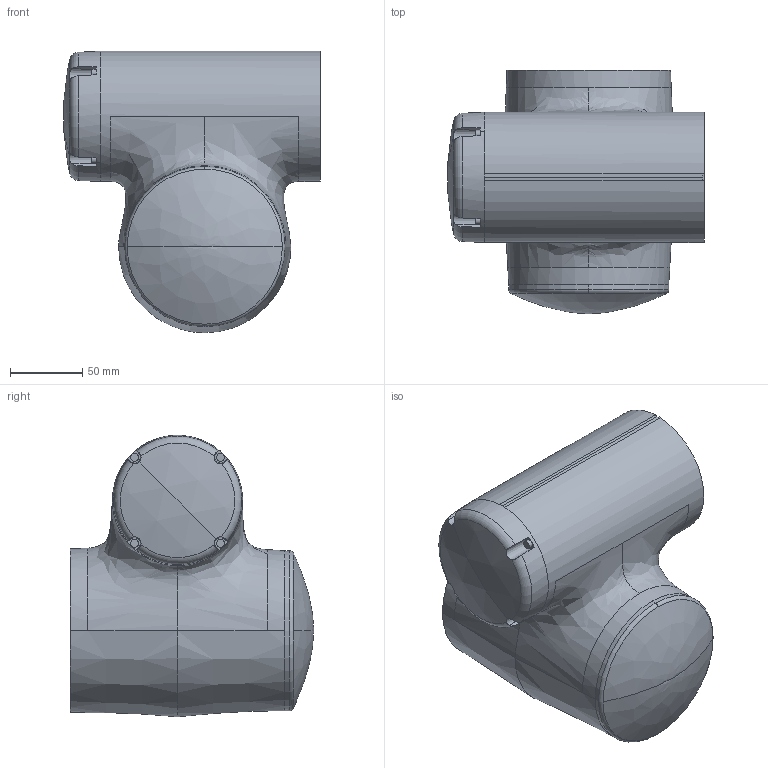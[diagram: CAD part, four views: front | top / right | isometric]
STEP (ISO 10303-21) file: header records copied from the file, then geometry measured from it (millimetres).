
FILE_DESCRIPTION (( 'STEP AP214' ), '1' );
FILE_NAME ('CRB1920_20kg-1670_OmniCore_rev00_Link5.step', '2026-03-06T03:42:47', ( '' ), ( '' ), 'SwSTEP 2.0', 'SolidWorks 2022', '' );
FILE_SCHEMA (( 'AUTOMOTIVE_DESIGN' ));
Length unit declared in the file: millimetre
Products named in the file (1): CRB1920_20kg-1670_OmniCore_rev00_Link5
Bounding box: 177.42 x 168 x 194.5 mm (x, y, z)
Volume: 2808303 mm3; surface area: 122758.6 mm2
Topology: 1 solids, 1 shells, 75 faces, 200 edges, 129 vertices
Faces by surface type: plane 34, cylinder 14, cone 13, bspline 6, torus 6, sphere 2
Entity records: 11994 total; most frequent: CARTESIAN_POINT 10173, ORIENTED_EDGE 396, DIRECTION 348, EDGE_CURVE 198, AXIS2_PLACEMENT_3D 140, VERTEX_POINT 129, EDGE_LOOP 79, ADVANCED_FACE 75
